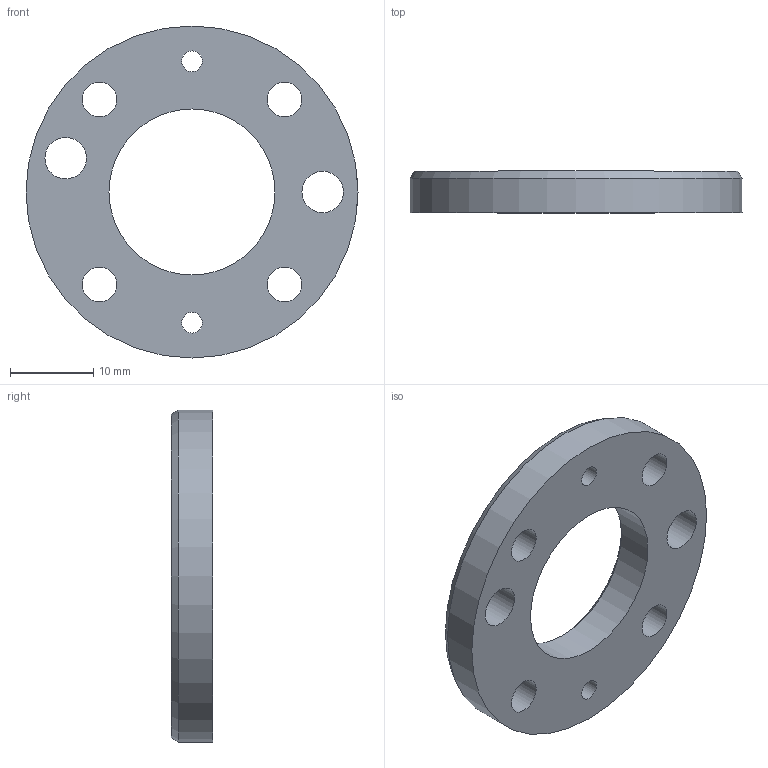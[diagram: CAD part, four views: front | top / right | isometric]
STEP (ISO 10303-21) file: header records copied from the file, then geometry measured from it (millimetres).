
FILE_DESCRIPTION (( 'STEP AP203' ), '1' );
FILE_NAME ('IRB1200GEN2_5kg-910_STD_OC_00_Link06L_CAD.STEP', '2025-06-16T02:35:25', ( '' ), ( '' ), 'SwSTEP 2.0', 'SolidWorks 2022', '' );
FILE_SCHEMA (( 'CONFIG_CONTROL_DESIGN' ));
Length unit declared in the file: millimetre
Products named in the file (1): IRB1200GEN2_5kg-910_STD_OC_00_Link06L_CAD
Bounding box: 40 x 5 x 40 mm (x, y, z)
Volume: 4153.5 mm3; surface area: 3051.3 mm2
Topology: 1 solids, 1 shells, 21 faces, 51 edges, 33 vertices
Faces by surface type: cylinder 10, plane 7, cone 4
Full cylindrical faces by diameter (mm): 2.5 x2, 4.2 x4, 5 x2, 20 x1, 40 x1
Entity records: 661 total; most frequent: DIRECTION 106, CARTESIAN_POINT 90, ORIENTED_EDGE 72, EDGE_LOOP 54, AXIS2_PLACEMENT_3D 48, EDGE_CURVE 36, VERTEX_POINT 32, FACE_OUTER_BOUND 31
